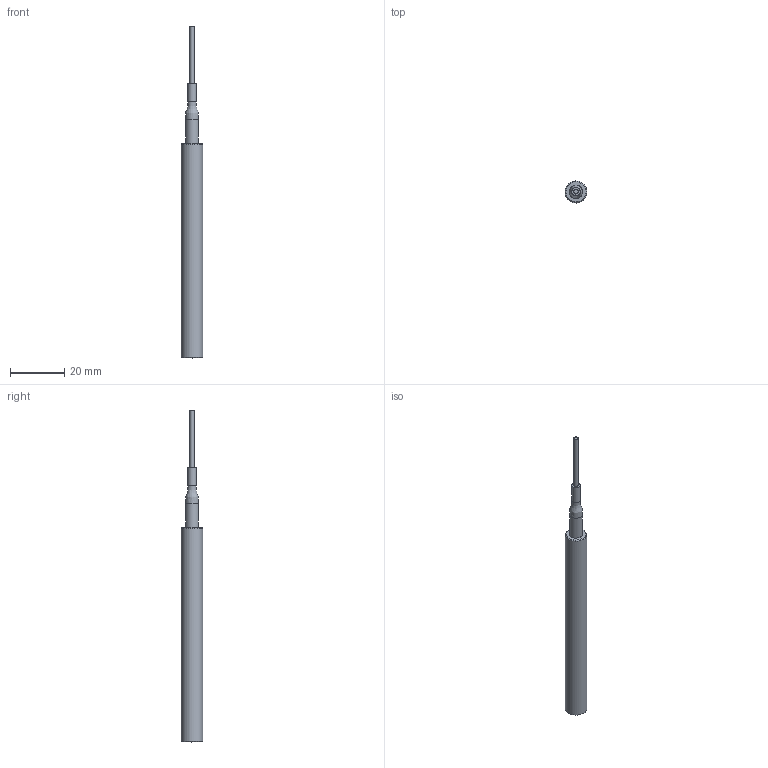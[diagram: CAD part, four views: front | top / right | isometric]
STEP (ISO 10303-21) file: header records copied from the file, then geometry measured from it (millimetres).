
FILE_DESCRIPTION((''),'2;1');
FILE_NAME('Y:\Konstruktion\GTProjekte\ME\Standartsensoren\IFS2403\IFS2403-0,4.stp','2013-01-17T09:24:05',('sven'),(''),'Autodesk Inventor 2012','Autodesk Inventor 2012','');
FILE_SCHEMA(('AUTOMOTIVE_DESIGN { 1 0 10303 214 1 1 1 1 }'));
Length unit declared in the file: millimetre
Products named in the file (6): IFS2403-0,4; faser; vorsatzlinse; Schrumpfschlauch; ME_S8mm_TypB; A110
Assembly tree (5 placements, depth 2):
  IFS2403-0,4
    faser
    vorsatzlinse
    Schrumpfschlauch
    ME_S8mm_TypB
    A110
Bounding box: 8 x 8 x 122.53 mm (x, y, z)
Volume: 2762.5 mm3; surface area: 4316.1 mm2
Topology: 5 solids, 5 shells, 31 faces, 52 edges, 31 vertices
Faces by surface type: cylinder 12, plane 11, cone 3, revolution 2, bspline 2, sphere 1
Full cylindrical faces by diameter (mm): 0.4 x1, 1.6 x1, 1.712 x1, 1.8 x1, 2.5 x1, 3.14 x1, 4.695 x1, 5 x1, 5.5 x1, 7.2 x2, 8 x1
Entity records: 1263 total; most frequent: CARTESIAN_POINT 519, DIRECTION 134, AXIS2_PLACEMENT_3D 66, ORIENTED_EDGE 64, EDGE_LOOP 53, EDGE_CURVE 32, FACE_OUTER_BOUND 31, ADVANCED_FACE 31
